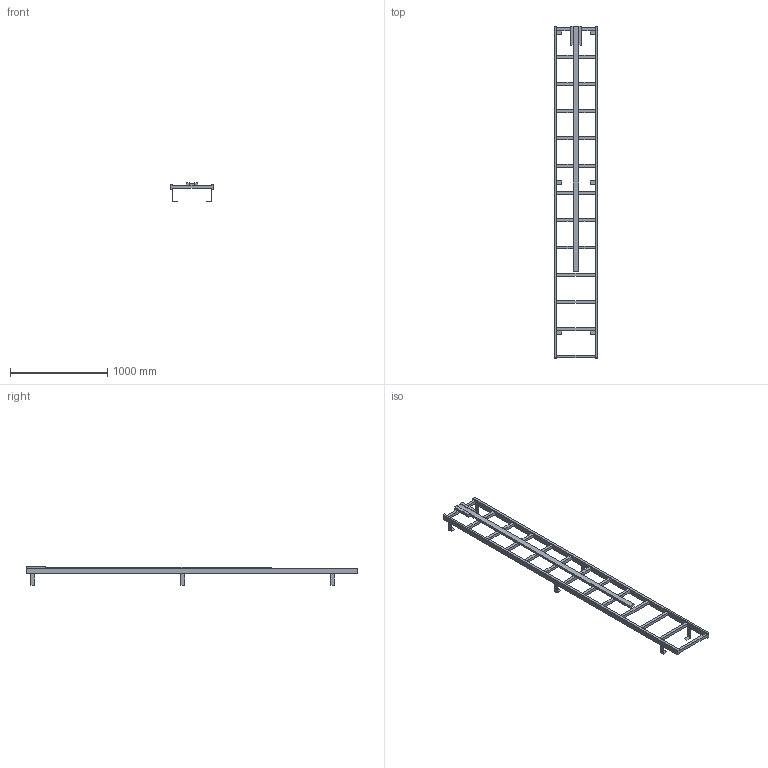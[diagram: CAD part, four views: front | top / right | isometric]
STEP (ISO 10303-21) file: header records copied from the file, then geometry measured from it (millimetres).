
FILE_DESCRIPTION((''),'2;1');
FILE_NAME('017_000109','2017-06-12T',('set'),('HUBER SE'),'PRO/ENGINEER BY PARAMETRIC TECHNOLOGY CORPORATION, 2015280','PRO/ENGINEER BY PARAMETRIC TECHNOLOGY CORPORATION, 2015280','');
FILE_SCHEMA(('CONFIG_CONTROL_DESIGN'));
Length unit declared in the file: millimetre
Products named in the file (1): 017_000109
Bounding box: 450 x 3410 x 195 mm (x, y, z)
Volume: 18242820 mm3; surface area: 2218580 mm2
Topology: 1 solids, 1 shells, 142 faces, 527 edges, 367 vertices
Faces by surface type: plane 142
Entity records: 5412 total; most frequent: CARTESIAN_POINT 1090, ORIENTED_EDGE 852, DIRECTION 792, VECTOR 480, LINE 480, EDGE_CURVE 426, VERTEX_POINT 266, EDGE_LOOP 162
